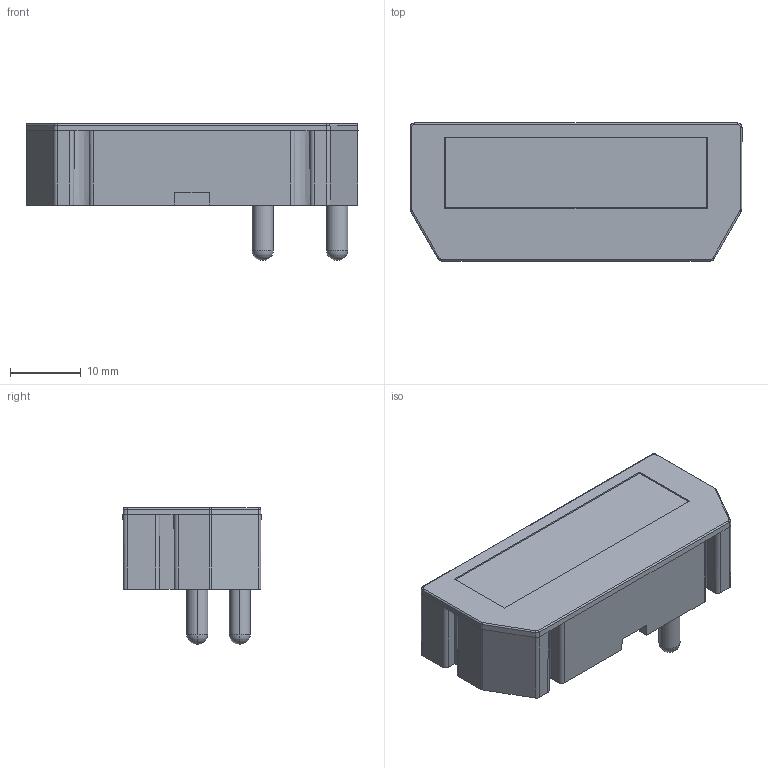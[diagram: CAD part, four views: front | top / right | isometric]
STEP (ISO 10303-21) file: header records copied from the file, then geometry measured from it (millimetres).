
FILE_DESCRIPTION (( 'STEP AP203' ), '1' );
FILE_NAME ('RT-043-1.STEP', '2024-12-03T13:23:14', ( '' ), ( '' ), 'SwSTEP 2.0', 'SolidWorks 2021', '' );
FILE_SCHEMA (( 'CONFIG_CONTROL_DESIGN' ));
Length unit declared in the file: millimetre
Products named in the file (1): RT-043-1
Bounding box: 46.9 x 19.5 x 19.3 mm (x, y, z)
Volume: 3939.3 mm3; surface area: 4983.7 mm2
Topology: 1 solids, 1 shells, 162 faces, 421 edges, 268 vertices
Faces by surface type: plane 84, bspline 32, cylinder 28, cone 14, torus 4
Entity records: 5508 total; most frequent: CARTESIAN_POINT 1676, ORIENTED_EDGE 842, DIRECTION 683, EDGE_CURVE 421, VECTOR 277, LINE 277, VERTEX_POINT 268, AXIS2_PLACEMENT_3D 203
